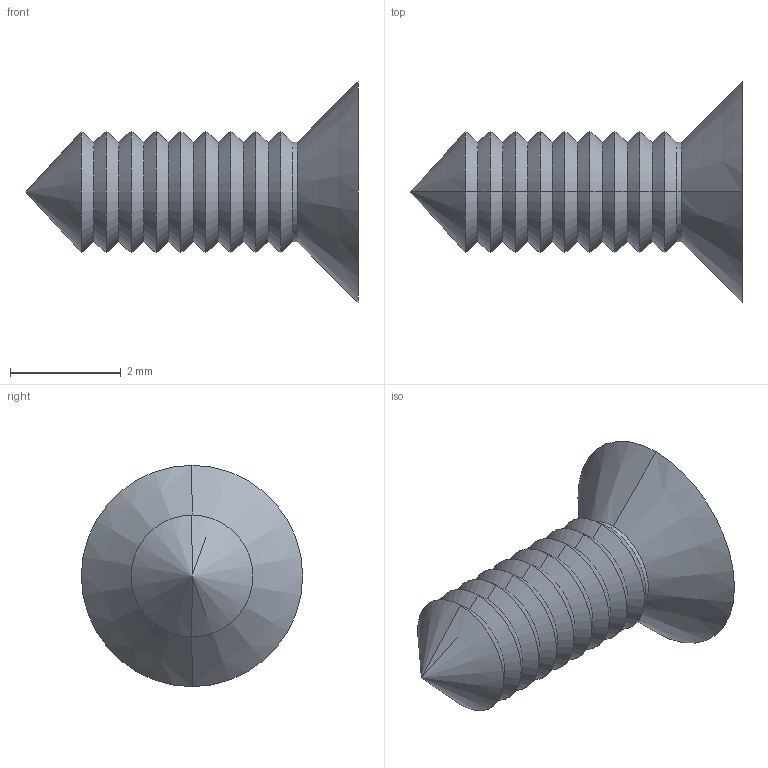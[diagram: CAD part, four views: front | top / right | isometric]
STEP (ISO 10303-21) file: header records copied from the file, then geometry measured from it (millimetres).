
FILE_DESCRIPTION (( 'STEP AP214' ), '1' );
FILE_NAME ('Cargol 2,2x6,95 PP7A.STEP', '2019-11-04T09:01:58', ( 'aaa' ), ( '' ), 'SwSTEP 2.0', 'SolidWorks 2014', '' );
FILE_SCHEMA (( 'AUTOMOTIVE_DESIGN' ));
Length unit declared in the file: millimetre
Products named in the file (1): Cargol 2,2x6,95 PP7A
Bounding box: 6 x 4 x 4 mm (x, y, z)
Volume: 20.3 mm3; surface area: 67.9 mm2
Topology: 1 solids, 1 shells, 54 faces, 118 edges, 65 vertices
Faces by surface type: cone 38, plane 14, cylinder 2
Entity records: 1458 total; most frequent: DIRECTION 266, CARTESIAN_POINT 236, ORIENTED_EDGE 232, EDGE_CURVE 116, AXIS2_PLACEMENT_3D 95, LINE 76, VECTOR 76, VERTEX_POINT 65
